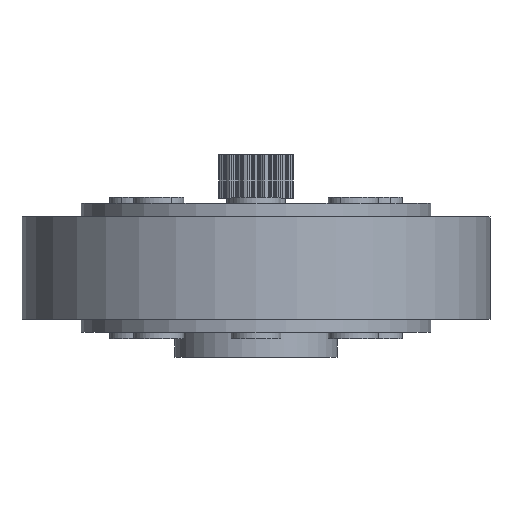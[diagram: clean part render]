
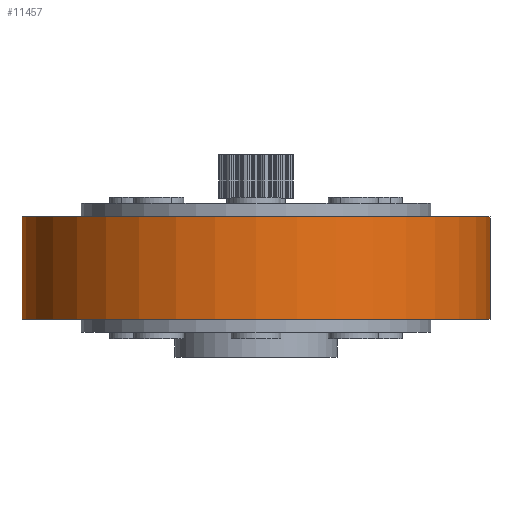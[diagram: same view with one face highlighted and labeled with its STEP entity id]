
A CAD part, front view. The second image highlights one B-rep face of the part: STEP entity #11457.
In plain terms, the highlighted cylindrical face has radius 37.5 mm (diameter 75 mm), a partial arc.
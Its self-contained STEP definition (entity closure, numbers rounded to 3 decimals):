
#237 = CARTESIAN_POINT ( 'NONE',  ( 37.5, 0., 8.2 ) ) ;
#361 = EDGE_CURVE ( 'NONE', #602, #12436, #5346, .T. ) ;
#602 = VERTEX_POINT ( 'NONE', #3783 ) ;
#771 = ORIENTED_EDGE ( 'NONE', *, *, #5324, .F. ) ;
#1124 = LINE ( 'NONE', #14407, #3363 ) ;
#3093 = VERTEX_POINT ( 'NONE', #4878 ) ;
#3138 = CARTESIAN_POINT ( 'NONE',  ( -37.5, 0., -8.2 ) ) ;
#3363 = VECTOR ( 'NONE', #9086, 1000. ) ;
#3502 = AXIS2_PLACEMENT_3D ( 'NONE', #4580, #12713, #8656 ) ;
#3783 = CARTESIAN_POINT ( 'NONE',  ( -37.5, 0., 8.2 ) ) ;
#4295 = LINE ( 'NONE', #237, #7650 ) ;
#4484 = AXIS2_PLACEMENT_3D ( 'NONE', #15000, #8263, #4559 ) ;
#4559 = DIRECTION ( 'NONE',  ( -1., 0., 0. ) ) ;
#4580 = CARTESIAN_POINT ( 'NONE',  ( 0., 0., -8.2 ) ) ;
#4878 = CARTESIAN_POINT ( 'NONE',  ( 37.5, 0., -8.2 ) ) ;
#5252 = FACE_OUTER_BOUND ( 'NONE', #17177, .T. ) ;
#5324 = EDGE_CURVE ( 'NONE', #12436, #3093, #4295, .T. ) ;
#5346 = CIRCLE ( 'NONE', #15264, 37.5 ) ;
#5721 = DIRECTION ( 'NONE',  ( 0., 0., -1. ) ) ;
#7367 = VERTEX_POINT ( 'NONE', #3138 ) ;
#7650 = VECTOR ( 'NONE', #5721, 1000. ) ;
#7879 = ORIENTED_EDGE ( 'NONE', *, *, #17173, .T. ) ;
#8263 = DIRECTION ( 'NONE',  ( 0., 0., -1. ) ) ;
#8656 = DIRECTION ( 'NONE',  ( 1., 0., 0. ) ) ;
#9086 = DIRECTION ( 'NONE',  ( 0., 0., -1. ) ) ;
#9729 = CARTESIAN_POINT ( 'NONE',  ( 0., 0., 8.2 ) ) ;
#10076 = CARTESIAN_POINT ( 'NONE',  ( 37.5, 0., 8.2 ) ) ;
#10122 = ORIENTED_EDGE ( 'NONE', *, *, #361, .F. ) ;
#11457 = ADVANCED_FACE ( 'NONE', ( #5252 ), #16587, .T. ) ;
#12242 = CIRCLE ( 'NONE', #3502, 37.5 ) ;
#12436 = VERTEX_POINT ( 'NONE', #10076 ) ;
#12471 = DIRECTION ( 'NONE',  ( 0., 0., 1. ) ) ;
#12713 = DIRECTION ( 'NONE',  ( 0., 0., 1. ) ) ;
#14407 = CARTESIAN_POINT ( 'NONE',  ( -37.5, 0., 8.2 ) ) ;
#14467 = EDGE_CURVE ( 'NONE', #602, #7367, #1124, .T. ) ;
#14733 = ORIENTED_EDGE ( 'NONE', *, *, #14467, .T. ) ;
#15000 = CARTESIAN_POINT ( 'NONE',  ( 0., 0., 8.2 ) ) ;
#15264 = AXIS2_PLACEMENT_3D ( 'NONE', #9729, #12471, #16543 ) ;
#16543 = DIRECTION ( 'NONE',  ( 1., 0., 0. ) ) ;
#16587 = CYLINDRICAL_SURFACE ( 'NONE', #4484, 37.5 ) ;
#17173 = EDGE_CURVE ( 'NONE', #7367, #3093, #12242, .T. ) ;
#17177 = EDGE_LOOP ( 'NONE', ( #771, #10122, #14733, #7879 ) ) ;
